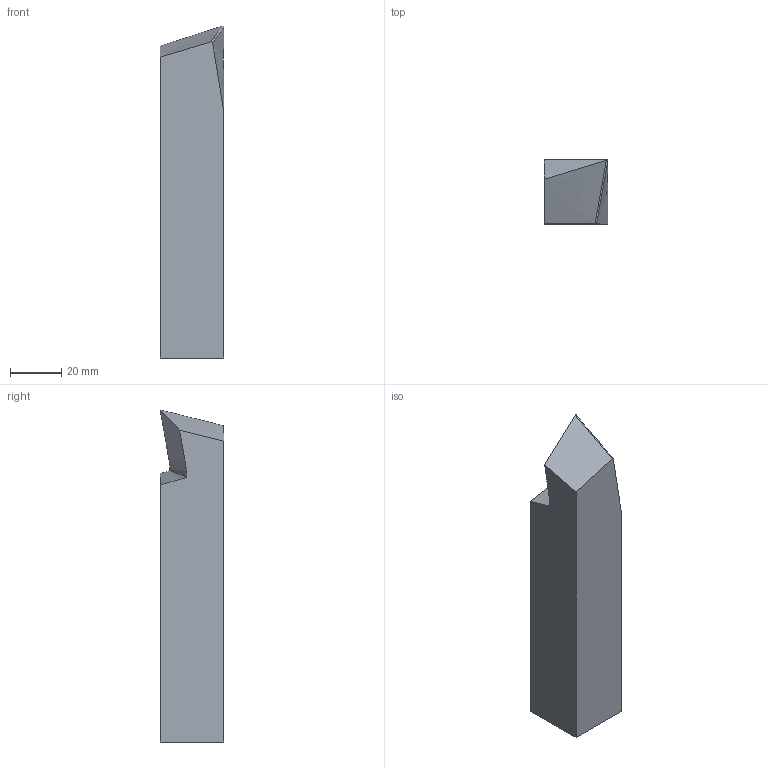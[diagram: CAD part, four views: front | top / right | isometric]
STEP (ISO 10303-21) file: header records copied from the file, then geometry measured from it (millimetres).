
FILE_DESCRIPTION (( 'STEP AP214' ), '1' );
FILE_NAME ('SinglePointTrial.STEP', '2019-07-23T19:51:43', ( '' ), ( '' ), 'SwSTEP 2.0', 'SolidWorks 2018', '' );
FILE_SCHEMA (( 'AUTOMOTIVE_DESIGN' ));
Length unit declared in the file: millimetre
Products named in the file (1): SinglePointTrial
Bounding box: 25 x 25 x 129.83 mm (x, y, z)
Volume: 73626.3 mm3; surface area: 13344.3 mm2
Topology: 1 solids, 1 shells, 9 faces, 20 edges, 13 vertices
Faces by surface type: plane 5, bspline 4
Entity records: 387 total; most frequent: CARTESIAN_POINT 177, ORIENTED_EDGE 40, DIRECTION 25, EDGE_CURVE 20, VECTOR 13, LINE 13, VERTEX_POINT 13, FACE_OUTER_BOUND 9
